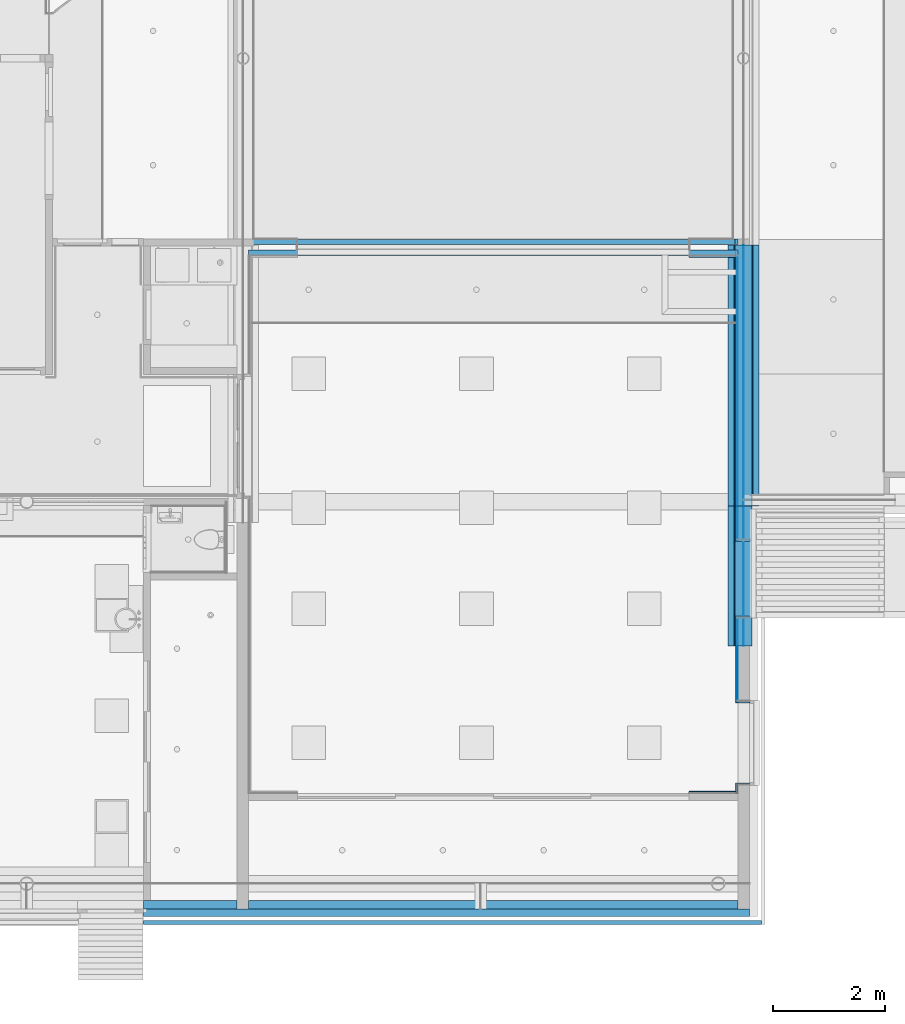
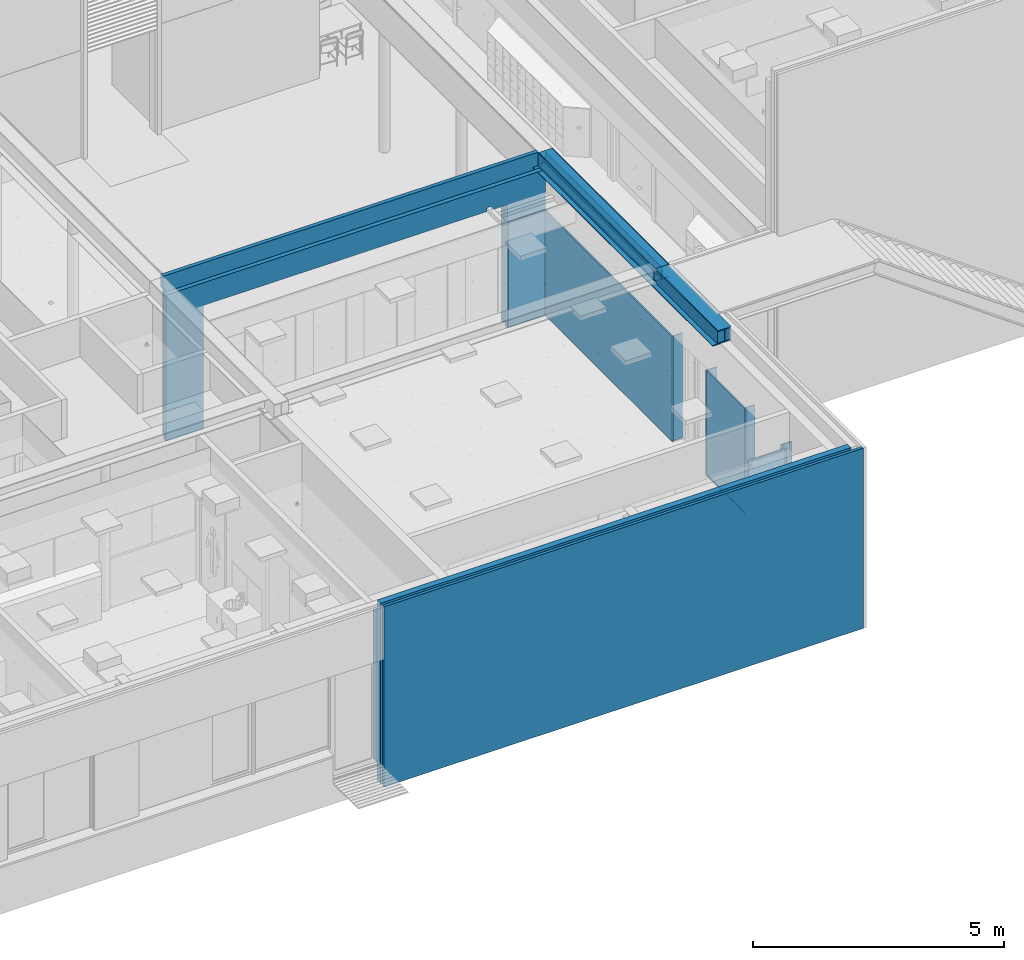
# One storey, part 116 of 347: 26 building element parts, 1 opening, 13 elements without a shape of their own.
"""IFC2X3 building model written with IfcOpenShell, lengths in millimetres."""

from ifc_helpers import new_model, entity, si_unit, converted_unit, derived_unit, money_unit, direction, frame, origin_with_axes, place, context, subcontext, project, spatial, faceted_brep, material, type_object, element, aggregate, save


model = new_model("IFC2X3")

# Units and contexts
model_context = context("Model", 3, precision=0.01, world=origin_with_axes(), true_north=direction((0.0, 1.0)))
plan_context = context("Plan", 3, precision=0.01, world=origin_with_axes(), true_north=direction((0.0, 1.0)))
body_context = subcontext(model_context, "Body", "Model", "MODEL_VIEW")
ifc_project = project(units=[si_unit("LENGTHUNIT", "METRE", prefix="MILLI"), si_unit("AREAUNIT", "SQUARE_METRE"), si_unit("VOLUMEUNIT", "CUBIC_METRE"), converted_unit("PLANEANGLEUNIT", "DEGREE", entity("IfcPlaneAngleMeasure", 0.0174532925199), si_unit("PLANEANGLEUNIT", "RADIAN"), dimensions=[0, 0, 0, 0, 0, 0, 0]), money_unit("EUR"), converted_unit("TIMEUNIT", "Year", entity("IfcTimeMeasure", 31556926.0), si_unit("TIMEUNIT", "SECOND"), dimensions=[0, 0, 1, 0, 0, 0, 0]), si_unit("MASSUNIT", "GRAM", prefix="KILO"), si_unit("THERMODYNAMICTEMPERATUREUNIT", "DEGREE_CELSIUS"), si_unit("LUMINOUSINTENSITYUNIT", "LUMEN"), si_unit("ENERGYUNIT", "JOULE", prefix="MEGA"), derived_unit("THERMALCONDUCTANCEUNIT", [(si_unit("POWERUNIT", "WATT"), 1), (si_unit("LENGTHUNIT", "METRE"), -1), (si_unit("THERMODYNAMICTEMPERATUREUNIT", "KELVIN"), -1)]), derived_unit("SPECIFICHEATCAPACITYUNIT", [(si_unit("ENERGYUNIT", "JOULE"), 1), (si_unit("MASSUNIT", "GRAM", prefix="KILO"), -1), (si_unit("THERMODYNAMICTEMPERATUREUNIT", "KELVIN"), -1)]), derived_unit("MASSDENSITYUNIT", [(si_unit("MASSUNIT", "GRAM", prefix="KILO"), 1), (si_unit("VOLUMEUNIT", "CUBIC_METRE"), -1)])], contexts=[model_context, plan_context])

# Site, building, storey
site_placement = place(None, origin_with_axes())
site = spatial("IfcSite", under=ifc_project, at=site_placement, Name="Site", CompositionType="ELEMENT")
building_placement = place(site_placement, origin_with_axes())
building = spatial("IfcBuilding", under=site, at=building_placement, Name="Naam gebouw", CompositionType="ELEMENT")
storey_placement = place(building_placement, origin_with_axes())
storey = spatial("IfcBuildingStorey", under=building, at=storey_placement, Name="begane grond", CompositionType="ELEMENT", Elevation=0.0)

# Wall, opening, building element parts
wall_type_1 = type_object("IfcWallType", Name="ALG LSW 300 300", PredefinedType="NOTDEFINED")
wall_1_placement = place(storey_placement, frame((44445.0012808, 16825.0009451, 0.0), z_axis=(0.0, 0.0, 1.0), x_axis=(-1.0, 0.0, 0.0)))
wall_1 = element("IfcWall", 1, at=wall_1_placement, inside=storey, type_object=wall_type_1, Name="21_GF 125 ECO DGS/2.75.3A")
opening_placement = place(wall_1_placement, frame((4370.00128081, 0.0, 0.0), z_axis=(0.0, 0.0, 1.0), x_axis=(1.0, 0.0, 0.0)))
element("IfcOpeningElement", 2, at=opening_placement, cuts=wall_1, Name="32_-", context=body_context, shape_type="Brep", body=[
    faceted_brep([(-3500.0, -600.0, 0.0), (-3500.0, -600.0, 3005.0), (-3500.0, 300.0, 3005.0), (-3500.0, 300.0, 0.0), (3500.0, -600.0, 0.0), (3500.0, -600.0, 3005.0), (3500.0, 300.0, 3005.0), (3500.0, 300.0, 0.0)], [[[0, 1, 2, 3]], [[0, 4, 5, 1]], [[1, 5, 6, 2]], [[3, 2, 6, 7]], [[4, 0, 3, 7]], [[5, 4, 7, 6]]]),
])
ifc_material_1 = material(Name="ALG - LICHTE SCHEIDINGSWAND")
building_element_part_1_placement = place(wall_1_placement, origin_with_axes())
building_element_part_1 = element("IfcBuildingElementPart", 3, at=building_element_part_1_placement, material=ifc_material_1, Name="ALG - LICHTE SCHEIDINGSWAND", context=body_context, shape_type="Brep", body=[
    faceted_brep([(1350.00128081, 300.0, 3005.0), (1350.00128081, 287.500945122, 3005.0), (1350.00128081, 287.500945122, 3100.0), (1350.00128081, 300.0, 3100.0), (7870.00128081, 287.500945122, 3005.0), (7870.00128081, 300.0, 3005.0), (7870.00128081, 287.500945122, 3100.0), (7870.00128081, 200.0, 3100.0), (870.001280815, 200.0, 3100.0), (870.001280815, 287.500945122, 3100.0), (1250.00128081, 287.500945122, 3100.0), (1250.00128081, 300.0, 3100.0), (870.001280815, 300.0, 3005.0), (870.001280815, 300.0, 0.0), (4.24466151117e-06, 300.0, 0.0), (4.24466151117e-06, 300.0, 3560.0), (8740.00126716, 300.0, 3560.0), (8740.00126716, 300.0, 0.0), (7870.00128081, 300.0, 0.0), (1250.00128081, 300.0, 3005.0), (7870.00128081, 200.0, 0.0), (7870.00128081, 200.0, 3000.0), (7870.00128081, 287.500945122, 3000.0), (870.001280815, 200.0, 0.0), (870.001280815, 200.0, 3000.0), (8740.00126716, 200.0, 0.0), (8740.00126716, 200.0, 3560.0), (3.50077300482e-07, 200.0, 3560.0), (4.24466151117e-06, 200.0, 0.0), (870.001280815, 287.500945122, 3000.0), (870.001280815, 287.500945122, 3005.0), (1250.00128081, 287.500945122, 3005.0)], [[[0, 1, 2, 3]], [[4, 1, 0, 5]], [[1, 4, 6, 2]], [[7, 8, 9, 10, 11, 3, 2, 6]], [[12, 13, 14, 15, 16, 17, 18, 5, 0, 3, 11, 19]], [[20, 21, 22, 4, 5, 18]], [[22, 21, 7, 6, 4]], [[23, 24, 8, 7, 21, 20, 25, 26, 27, 28]], [[29, 30, 9, 8, 24]], [[30, 31, 10, 9]], [[31, 19, 11, 10]], [[29, 24, 23, 13, 12, 30]], [[13, 23, 28, 14]], [[27, 15, 14, 28]], [[15, 27, 26, 16]], [[16, 26, 25, 17]], [[20, 18, 17, 25]], [[31, 30, 12, 19]]]),
])
building_element_part_2_placement = place(wall_1_placement, origin_with_axes())
building_element_part_2 = element("IfcBuildingElementPart", 4, at=building_element_part_2_placement, material=ifc_material_1, Name="ALG - LICHTE SCHEIDINGSWAND", context=body_context, shape_type="Brep", body=[
    faceted_brep([(8650.00117154, 12.0009428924, 3560.0), (8650.00117154, 0.000945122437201, 3560.0), (8650.00117154, 0.000942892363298, 3880.0), (8650.00117154, 12.0009428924, 3880.0), (8690.00128081, 0.000945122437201, 3560.0), (8650.00117154, 100.0, 3560.0), (8690.00128081, 100.0, 3560.0), (8690.00128081, -0.000268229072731, 3880.0), (50.0013031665, 0.000164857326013, 3880.0), (90.0012808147, 0.000942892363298, 3880.0), (90.0012808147, 12.0009428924, 3880.0), (8690.00128081, 100.0, 3880.0), (50.0013031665, 100.0, 3880.0), (8650.00117154, 12.0009428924, 3000.0), (90.0012786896, 12.0009428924, 3012.0), (90.0012808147, 12.0009428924, 3000.0), (870.001280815, 12.0009428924, 3000.0), (870.001280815, 12.0009428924, 3012.0), (7870.00128081, 12.0009428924, 3012.0), (7870.00128081, 12.0009428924, 3000.0), (8650.00117154, 12.5009428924, 3000.0), (8650.00117154, 12.5009428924, 0.0), (8650.00117154, 100.0, 0.0), (7882.50128081, 100.0, 0.0), (7882.50128081, 100.0, 3000.0), (7870.00128081, 100.0, 3000.0), (7870.00128081, 100.0, 3012.0), (870.001280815, 100.0, 3012.0), (870.001280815, 100.0, 3000.0), (857.501280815, 100.0, 3000.0), (857.501280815, 100.0, 0.0), (4.24466151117e-06, 100.0, 0.0), (4.24466151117e-06, 100.0, 3560.0), (50.0013031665, 100.0, 3560.0), (50.0013031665, 0.000204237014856, 3560.0), (4.24466151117e-06, 0.0, 3560.0), (2.24777352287e-06, 0.000146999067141, 3012.0), (90.0012765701, 0.00026966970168, 3012.0), (90.0012765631, 15.0009779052, 3012.0), (90.0012765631, 15.0009779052, 3000.0), (90.0000252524, 12.5009416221, 3000.0), (857.501280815, 12.5009416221, 3000.0), (7882.50128081, 12.5009428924, 3000.0), (7882.50128081, 12.5009428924, 0.0), (857.501280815, 12.5009416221, 0.0), (90.0000252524, 12.5009416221, 0.0), (90.0000252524, 0.000941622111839, 0.0), (4.24466151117e-06, 0.000954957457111, 0.0), (2.2608972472e-06, 0.000150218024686, 3000.0), (2.2608972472e-06, 15.0009779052, 3000.0), (2.24777352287e-06, 15.0009779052, 3012.0), (90.0000252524, 0.000941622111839, 3000.0)], [[[0, 1, 2, 3]], [[4, 1, 0, 5, 6]], [[1, 4, 7, 2]], [[8, 9, 10, 3, 2, 7, 11, 12]], [[13, 0, 3, 10, 14, 15, 16, 17, 18, 19]], [[0, 13, 20, 21, 22, 5]], [[5, 22, 23, 24, 25, 26, 27, 28, 29, 30, 31, 32, 33, 12, 11, 6]], [[4, 6, 11, 7]], [[9, 8, 34, 35, 36, 37]], [[37, 14, 10, 9]], [[8, 12, 33, 34]], [[38, 39, 40, 15, 14]], [[28, 16, 15, 40, 41, 29]], [[28, 27, 17, 16]], [[17, 27, 26, 18]], [[18, 26, 25, 19]], [[20, 13, 19, 25, 24, 42]], [[21, 20, 42, 43]], [[22, 21, 43, 23]], [[23, 43, 42, 24]], [[44, 30, 29, 41]], [[44, 45, 46, 47, 31, 30]], [[48, 49, 50, 36, 35, 32, 31, 47]], [[34, 33, 32, 35]], [[38, 14, 37, 36, 50]], [[49, 39, 38, 50]], [[40, 39, 49, 48, 51]], [[40, 45, 44, 41]], [[51, 46, 45, 40]], [[47, 46, 51, 48]]]),
])
aggregate(wall_1, [building_element_part_1, building_element_part_2])

# Wall, building element parts
wall_type_2 = type_object("IfcWallType", Name="22 beg metselwerk 430 x 4390", PredefinedType="NOTDEFINED")
wall_2_placement = place(storey_placement, frame((33825.0, 5000.0, 0.0), z_axis=(0.0, 0.0, 1.0), x_axis=(1.0, 0.0, 0.0)))
wall_2 = element("IfcWall", 5, at=wall_2_placement, inside=storey, type_object=wall_type_2, Name="21_21 betonwand")
ifc_material_2 = material(Name="Steen - Kalkzandsteen C")
building_element_part_3_placement = place(wall_2_placement, origin_with_axes())
building_element_part_3 = element("IfcBuildingElementPart", 6, at=building_element_part_3_placement, material=ifc_material_2, Name="Steen - Kalkzandsteen C", context=body_context, shape_type="Brep", body=[
    faceted_brep([(0.0, -149.999997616, 3559.99997586), (1670.0, -150.0, 3560.0), (1670.0, -2.30968222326e-05, 3560.0), (0.0, -2.30968222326e-05, 3559.99997586), (0.0, -149.999997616, -69.9999831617), (1670.0, -150.0, -69.9999831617), (1670.0, -2.30968186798e-05, -69.9999831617), (0.0, -2.30968222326e-05, -69.9999831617)], [[[0, 1, 2, 3]], [[4, 5, 1, 0]], [[5, 6, 2, 1]], [[3, 2, 6, 7]], [[3, 7, 4, 0]], [[7, 6, 5, 4]]]),
    faceted_brep([(1880.0, -150.0, 3560.0), (10620.0012766, -149.999997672, 3560.0), (10620.0012766, -2.30968222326e-05, 3560.0), (1880.0, -2.30968222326e-05, 3560.0), (1880.0, -150.0, -69.9999831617), (10620.0012766, -149.999997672, -69.9999831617), (10620.0012766, -2.30968222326e-05, -69.9999831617), (1880.0, -2.30968222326e-05, -69.9999831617)], [[[0, 1, 2, 3]], [[4, 5, 1, 0]], [[5, 6, 2, 1]], [[3, 2, 6, 7]], [[4, 0, 3, 7]], [[7, 6, 5, 4]]]),
])
ifc_material_3 = material(Name="Isolatie - Kunststof hard")
building_element_part_4_placement = place(wall_2_placement, origin_with_axes())
building_element_part_4 = element("IfcBuildingElementPart", 7, at=building_element_part_4_placement, material=ifc_material_3, Name="Isolatie - Kunststof hard", context=body_context, shape_type="Brep", body=[
    faceted_brep([(0.0, -290.0, 3880.0), (10829.9999844, -290.0, 3880.0), (10829.9999844, -150.0, 3880.0), (0.0, -150.0, 3880.0), (10829.9999844, -290.0, -510.0), (0.0, -290.0, -510.0), (10829.9999844, -149.999997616, -69.9999831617), (10829.9999844, -149.999997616, 3559.99997586), (10829.9999844, -150.0, -510.0), (0.0, -149.999997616, 3559.99997586), (0.0, -149.999997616, -69.9999831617), (0.0, -150.0, -510.0)], [[[0, 1, 2, 3]], [[4, 1, 0, 5]], [[6, 7, 2, 1, 4, 8]], [[3, 2, 7, 9]], [[9, 10, 11, 5, 0, 3]], [[11, 8, 4, 5]], [[9, 7, 6, 10]], [[10, 6, 8, 11]]]),
])
ifc_material_4 = material(Name="Steen - Baksteen")
building_element_part_5_placement = place(wall_2_placement, origin_with_axes())
building_element_part_5 = element("IfcBuildingElementPart", 8, at=building_element_part_5_placement, material=ifc_material_4, Name="Steen - Baksteen", context=body_context, shape_type="Brep", body=[
    faceted_brep([(11039.9999985, -430.000064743, 3880.0), (11039.9999985, -360.000015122, 3880.0000008), (0.0, -360.000015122, 3880.0), (0.0, -430.00008173, 3880.0), (11039.9999985, -430.000064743, -510.0), (11039.9999985, -360.000015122, -510.0), (0.0, -360.000015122, -510.0), (0.0, -430.00008173, -510.0)], [[[0, 1, 2, 3]], [[1, 0, 4, 5]], [[1, 5, 6, 2]], [[7, 3, 2, 6]], [[0, 3, 7, 4]], [[5, 4, 7, 6]]]),
])
aggregate(wall_2, [building_element_part_3, building_element_part_4, building_element_part_5])

# Beam, building element parts
beam_type_1 = type_object("IfcBeamType", Name="28 SFBHE320B/S355 550 x 340", PredefinedType="BEAM")
beam_1_placement = place(storey_placement, frame((44545.0, 16710.0006327, 3560.0), z_axis=(0.0, 0.0, 1.0), x_axis=(-1.0, 0.0, 0.0)))
beam_1 = element("IfcBeam", 9, at=beam_1_placement, inside=storey, type_object=beam_type_1, Name="28_Balk-x", ObjectType="BEAM")
ifc_material_5 = material(Name="Beton gewapend C vloer")
building_element_part_6_placement = place(beam_1_placement, origin_with_axes())
building_element_part_6 = element("IfcBuildingElementPart", 10, at=building_element_part_6_placement, material=ifc_material_5, Name="Beton gewapend C vloer", context=body_context, shape_type="Brep", body=[
    faceted_brep([(-170.0, 4559.50059906, 185.000000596), (-170.0, 4655.00059906, 185.000000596), (-170.0, 4655.00059906, 200.000000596), (-170.0, 4455.00059906, 200.000000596), (-170.0, 4455.00059906, 185.000000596), (-170.0, 4550.50059906, 185.000000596), (-170.0, 4550.50059906, 15.000000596), (-170.0, 4455.00059906, 15.000000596), (-170.0, 4455.00059906, 4.65583127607e-09), (-170.0, 0.0, 0.0), (-170.0, 0.0, 320.000002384), (-170.0, 4660.00059903, 320.000002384), (-170.0, 4660.00059903, 0.0), (-170.0, 4655.00059906, 4.65583127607e-09), (-170.0, 4655.00059906, 15.000000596), (-170.0, 4559.50059906, 15.000000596), (-5.75, 4655.00059906, 185.000000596), (-5.75, 4559.50059906, 185.000000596), (-5.75, 4655.00059906, 200.000000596), (-5.75, 4455.00059906, 200.000000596), (-5.75, 4455.00059906, 185.000000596), (-5.75, 4550.50059906, 185.000000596), (-150.0, 4550.50059906, 15.000000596), (-5.75, 4550.50059906, 20.5), (-150.0, 4550.50059906, 20.5), (-150.0, 4455.00059906, 15.000000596), (-150.0, 4455.00059906, 0.0), (-150.000002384, 0.0, 0.0), (-150.000002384, 0.0, 320.000002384), (-150.000002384, 0.0, 20.500000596), (-5.74999880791, 0.0, 20.500000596), (-5.74999880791, 0.0, 299.500001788), (-150.000002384, 0.0, 299.500001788), (-150.000002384, 4660.00059903, 320.000002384), (-150.000002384, 4660.00059903, 20.500000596), (-150.000002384, 4660.00059903, 0.0), (-150.000002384, 4660.00059903, 299.500001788), (-5.74999880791, 4660.00059903, 299.500001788), (-5.74999880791, 4660.00059903, 20.500000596), (-150.0, 4655.00059906, 0.0), (-150.0, 4655.00059906, 15.000000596), (-150.0, 4559.50059906, 15.000000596), (-150.0, 4559.50059906, 20.5), (-5.75, 4559.50059906, 20.5)], [[[0, 1, 2, 3, 4, 5, 6, 7, 8, 9, 10, 11, 12, 13, 14, 15]], [[16, 1, 0, 17]], [[18, 2, 1, 16]], [[19, 3, 2, 18]], [[20, 4, 3, 19]], [[21, 5, 4, 20]], [[22, 6, 5, 21, 23, 24]], [[25, 7, 6, 22]], [[26, 8, 7, 25]], [[9, 8, 26, 27]], [[28, 10, 9, 27, 29, 30, 31, 32]], [[10, 28, 33, 11]], [[34, 35, 12, 11, 33, 36, 37, 38]], [[35, 39, 13, 12]], [[40, 14, 13, 39]], [[41, 15, 14, 40]], [[17, 0, 15, 41, 42, 43]], [[16, 17, 43, 38, 37, 31, 30, 23, 21, 20, 19, 18]], [[29, 24, 23, 30]], [[25, 22, 24, 29, 27, 26]], [[32, 31, 37, 36]], [[28, 32, 36, 33]], [[41, 40, 39, 35, 34, 42]], [[38, 43, 42, 34]]]),
    faceted_brep([(5.75, 4590.7506327, 20.5), (5.75, 4590.7506327, 299.5), (5.74999880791, 4660.00059903, 299.500001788), (5.74999880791, 4660.00059903, 20.500000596), (150.0, 4590.7506327, 299.5), (150.0, 4590.7506327, 20.5), (170.0, 4590.7506327, 20.5), (170.0, 4590.7506327, 299.5), (170.0, 4660.00059903, 299.5), (150.0, 4660.00059903, 299.5), (170.0, 4660.00059903, 20.5), (150.000001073, 4660.00059903, 20.4999995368)], [[[0, 1, 2, 3]], [[4, 1, 0, 5, 6, 7]], [[4, 7, 8, 9, 2, 1]], [[10, 11, 3, 2, 9, 8]], [[5, 0, 3, 11, 10, 6]], [[6, 10, 8, 7]]]),
    faceted_brep([(150.0, 4435.0006327, 299.5), (170.0, 4435.0006327, 299.5), (170.0, 4579.2506327, 299.5), (150.0, 4579.2506327, 299.5), (5.75, 4579.2506327, 299.5), (5.74999880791, 0.0, 299.500001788), (150.000002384, 0.0, 299.500001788), (150.0, 4435.0006327, 320.0), (170.0, 4435.0006327, 320.0), (170.0, 0.0, 320.000002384), (170.0, 0.0, 0.0), (170.0, 4435.0006327, 0.0), (170.0, 4435.0006327, 20.5), (170.0, 4579.2506327, 20.5), (5.75, 4579.2506327, 20.5), (150.0, 4579.2506327, 20.5), (5.74999880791, 0.0, 20.500000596), (150.000002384, 0.0, 20.500000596), (150.000002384, 0.0, 0.0), (150.000002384, 0.0, 320.000002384), (150.0, 4435.0006327, 0.0), (150.0, 4435.0006327, 20.5)], [[[0, 1, 2, 3, 4, 5, 6]], [[0, 7, 8, 1]], [[1, 8, 9, 10, 11, 12, 13, 2]], [[14, 4, 3, 2, 13, 15]], [[4, 14, 16, 5]], [[6, 5, 16, 17, 18, 10, 9, 19]], [[7, 0, 6, 19]], [[8, 7, 19, 9]], [[20, 11, 10, 18]], [[20, 21, 12, 11]], [[15, 13, 12, 21, 17, 16, 14]], [[21, 20, 18, 17]]]),
])
ifc_material_6 = material(Name="Metaal - Staal C")
building_element_part_7_placement = place(beam_1_placement, origin_with_axes())
building_element_part_7 = element("IfcBuildingElementPart", 11, at=building_element_part_7_placement, material=ifc_material_6, Name="Metaal - Staal C", context=body_context, shape_type="Brep", body=[
    faceted_brep([(-150.0, 4660.00059903, 0.0), (150.0, 4660.00059903, 0.0), (150.0, 0.0, 0.0), (-150.0, 0.0, 0.0), (-150.0, 4660.00059903, 20.5), (150.0, 4660.00059903, 20.5), (150.0, 0.0, 20.5), (-150.0, 0.0, 20.5)], [[[0, 1, 2, 3]], [[0, 4, 5, 1]], [[1, 5, 6, 2]], [[3, 2, 6, 7]], [[4, 0, 3, 7]], [[5, 4, 7, 6]]]),
])
building_element_part_8_placement = place(beam_1_placement, origin_with_axes())
building_element_part_8 = element("IfcBuildingElementPart", 12, at=building_element_part_8_placement, material=ifc_material_6, Name="Metaal - Staal C", context=body_context, shape_type="Brep", body=[
    faceted_brep([(-5.75, 4660.00059903, 299.5), (-5.75, 4660.00059903, 20.5), (-5.75, 0.0, 20.5), (-5.75, 0.0, 299.5), (5.75, 4660.00059903, 299.5), (5.75, 4660.00059903, 20.5), (5.75, 0.0, 20.5), (5.75, 0.0, 299.5)], [[[0, 1, 2, 3]], [[0, 4, 5, 1]], [[1, 5, 6, 2]], [[3, 2, 6, 7]], [[4, 0, 3, 7]], [[5, 4, 7, 6]]]),
])
building_element_part_9_placement = place(beam_1_placement, origin_with_axes())
building_element_part_9 = element("IfcBuildingElementPart", 13, at=building_element_part_9_placement, material=ifc_material_6, Name="Metaal - Staal C", context=body_context, shape_type="Brep", body=[
    faceted_brep([(-150.0, 4660.00059903, 320.0), (-150.0, 4660.00059903, 299.5), (-150.0, 0.0, 299.5), (-150.0, 0.0, 320.0), (150.0, 4660.00059903, 320.0), (150.0, 4660.00059903, 299.5), (150.0, 0.0, 299.5), (150.0, 0.0, 320.0)], [[[0, 1, 2, 3]], [[0, 4, 5, 1]], [[1, 5, 6, 2]], [[3, 2, 6, 7]], [[4, 0, 3, 7]], [[5, 4, 7, 6]]]),
])
building_element_part_10_placement = place(beam_1_placement, origin_with_axes())
building_element_part_10 = element("IfcBuildingElementPart", 14, at=building_element_part_10_placement, material=ifc_material_6, Name="Metaal - Staal C", context=body_context, shape_type="Brep", body=[
    faceted_brep([(-275.0, 4660.00059903, 0.0), (-275.0, 4660.00059903, -20.0), (-275.0, 0.0, -20.0), (-275.0, 0.0, 0.0), (-170.0, 4660.00059903, 0.0), (170.0, 4660.00059903, 0.0), (275.0, 4660.00059903, 0.0), (275.0, 4660.00059903, -20.0), (275.0, 0.0, -20.0), (275.0, 0.0, 0.0), (170.0, 0.0, 0.0), (-170.0, 0.0, 0.0)], [[[0, 1, 2, 3]], [[0, 4, 5, 6, 7, 1]], [[1, 7, 8, 2]], [[3, 2, 8, 9, 10, 11]], [[4, 0, 3, 11]], [[5, 4, 11, 10]], [[6, 5, 10, 9]], [[7, 6, 9, 8]]]),
])
aggregate(beam_1, [building_element_part_6, building_element_part_7, building_element_part_8, building_element_part_9, building_element_part_10])

# Proxy, building element part
building_element_proxy_type = type_object("IfcBuildingElementProxyType", Name="Viltonwand 2600+ 33 x 2600", PredefinedType="NOTDEFINED")
proxy_1_placement = place(storey_placement, frame((44654.9999844, 7065.00951773, 0.0), z_axis=(0.0, 0.0, 1.0), x_axis=(-1.0, 8.90627314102e-08, 0.0)))
proxy_1 = element("IfcBuildingElementProxy", 15, at=proxy_1_placement, inside=storey, type_object=building_element_proxy_type, Name="42_52 wandtegels keramisch")
ifc_material_7 = material(Name="Vilton")
building_element_part_11_placement = place(proxy_1_placement, origin_with_axes())
building_element_part_11 = element("IfcBuildingElementPart", 16, at=building_element_part_11_placement, material=ifc_material_7, Name="Vilton", context=body_context, shape_type="Brep", body=[
    faceted_brep([(242.999502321, -32.9999783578, 50.0000059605), (242.999502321, -32.9999783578, 2600.0), (2.93907476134e-06, -33.0, 2600.0), (2.93907476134e-06, -33.0, 50.0), (242.999588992, 2.16422071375e-05, 2600.0), (242.99957586, -4.99998431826, 50.0000059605), (242.999588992, 2.16422071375e-05, 50.0000059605), (0.0, 0.0, 2600.0), (0.0, 0.0, 50.0), (4.45318448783e-07, -5.00000596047, 50.0000059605)], [[[0, 1, 2, 3]], [[4, 1, 0, 5, 6]], [[1, 4, 7, 2]], [[3, 2, 7, 8, 9]], [[5, 0, 3, 9]], [[6, 5, 9, 8]], [[4, 6, 8, 7]]]),
])
aggregate(proxy_1, [building_element_part_11])

proxy_2_placement = place(storey_placement, frame((44445.0004073, 7065.00953644, 0.0), z_axis=(0.0, 0.0, 1.0), x_axis=(-2.71545800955e-06, -0.999999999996, 0.0)))
proxy_2 = element("IfcBuildingElementProxy", 17, at=proxy_2_placement, inside=storey, type_object=building_element_proxy_type, Name="42_53 wandtegels keramisch")
building_element_part_12_placement = place(proxy_2_placement, origin_with_axes())
building_element_part_12 = element("IfcBuildingElementPart", 18, at=building_element_part_12_placement, material=ifc_material_7, Name="Vilton", context=body_context, shape_type="Brep", body=[
    faceted_brep([(1.87031359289e-05, 0.0, 50.0), (1.87031359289e-05, 0.0, 2600.0), (150.000005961, 0.0, 2600.0), (150.000005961, 0.0, 50.0000059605), (0.000108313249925, -33.0, 2600.0), (3.22804423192e-05, -5.00000596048, 50.0), (0.000108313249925, -33.0, 50.0), (150.000095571, -33.0, 2600.0), (150.000019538, -5.00000596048, 50.0000059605), (150.000095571, -33.0, 50.0000059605)], [[[0, 1, 2, 3]], [[4, 1, 0, 5, 6]], [[1, 4, 7, 2]], [[8, 3, 2, 7, 9]], [[5, 0, 3, 8]], [[6, 5, 8, 9]], [[4, 6, 9, 7]]]),
])
aggregate(proxy_2, [building_element_part_12])

proxy_3_placement = place(storey_placement, frame((44445.0, 6915.00953644, 0.0), z_axis=(0.0, 0.0, 1.0), x_axis=(-1.0, 0.0, 0.0)))
proxy_3 = element("IfcBuildingElementProxy", 19, at=proxy_3_placement, inside=storey, type_object=building_element_proxy_type, Name="42_54 wandtegels keramisch")
building_element_part_13_placement = place(proxy_3_placement, origin_with_axes())
building_element_part_13 = element("IfcBuildingElementPart", 20, at=building_element_part_13_placement, material=ifc_material_7, Name="Vilton", context=body_context, shape_type="Brep", body=[
    faceted_brep([(33.0000000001, 0.0, 2600.0), (32.99991039, -33.0, 2600.0), (870.0, -33.0, 2600.0), (870.0, 0.0, 2600.0), (32.99991039, -33.0, 50.0), (33.0000000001, 0.0, 50.0), (32.9999864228, -5.00000596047, 50.0), (870.0, -33.0, 50.0), (870.0, 0.0, 50.0), (870.0, -5.00000596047, 50.0000059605)], [[[0, 1, 2, 3]], [[4, 1, 0, 5, 6]], [[1, 4, 7, 2]], [[8, 3, 2, 7, 9]], [[5, 0, 3, 8]], [[6, 5, 8, 9]], [[4, 6, 9, 7]]]),
])
aggregate(proxy_3, [building_element_part_13])

proxy_4_placement = place(storey_placement, frame((44655.0007534, 10050.0, 0.0), z_axis=(0.0, 0.0, 1.0), x_axis=(-1.0, 0.0, 0.0)))
proxy_4 = element("IfcBuildingElementProxy", 21, at=proxy_4_placement, inside=storey, type_object=building_element_proxy_type, Name="42_55 wandtegels keramisch")
building_element_part_14_placement = place(proxy_4_placement, origin_with_axes())
building_element_part_14 = element("IfcBuildingElementPart", 22, at=building_element_part_14_placement, material=ifc_material_7, Name="Vilton", context=body_context, shape_type="Brep", body=[
    faceted_brep([(243.000092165, -33.0, 50.0000059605), (243.000092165, -33.0, 2600.0), (0.0, -33.0, 2600.0), (0.0, -33.0, 50.0), (243.000092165, 0.0, 2600.0), (243.000092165, -5.00000596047, 50.0000059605), (243.000092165, 0.0, 50.0000059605), (0.0, 0.0, 2600.0), (0.0, 0.0, 50.0), (0.0, -5.00000596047, 50.0000059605)], [[[0, 1, 2, 3]], [[4, 1, 0, 5, 6]], [[1, 4, 7, 2]], [[3, 2, 7, 8, 9]], [[5, 0, 3, 9]], [[6, 5, 9, 8]], [[4, 6, 8, 7]]]),
])
aggregate(proxy_4, [building_element_part_14])

# Proxy, building element parts
proxy_5_placement = place(storey_placement, frame((44445.0006732, 10050.0, 0.0), z_axis=(0.0, 0.0, 1.0), x_axis=(-8.90627305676e-08, -1.0, 0.0)))
proxy_5 = element("IfcBuildingElementProxy", 23, at=proxy_5_placement, inside=storey, type_object=building_element_proxy_type, Name="42_56 wandtegels keramisch")
ifc_material_8 = material(Name="Kunststof - massief")
building_element_part_15_placement = place(proxy_5_placement, origin_with_axes())
building_element_part_15 = element("IfcBuildingElementPart", 24, at=building_element_part_15_placement, material=ifc_material_8, Name="Kunststof - massief", context=body_context, shape_type="Brep", body=[
    faceted_brep([(1.78814101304e-05, 1.78814119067e-05, 0.0), (1.78814101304e-05, 1.78814119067e-05, 50.0000059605), (1489.99048145, 0.000150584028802, 50.0000059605), (1489.99048145, 0.000150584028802, 0.0), (1.83267250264e-05, -5.00000596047, 50.0000059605), (1.83267250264e-05, -5.00000596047, 0.0), (1489.99048189, -4.99987325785, 50.0000059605), (1489.99048189, -4.99987325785, 0.0)], [[[0, 1, 2, 3]], [[4, 1, 0, 5]], [[1, 4, 6, 2]], [[7, 3, 2, 6]], [[5, 0, 3, 7]], [[4, 5, 7, 6]]]),
])
building_element_part_16_placement = place(proxy_5_placement, origin_with_axes())
building_element_part_16 = element("IfcBuildingElementPart", 25, at=building_element_part_16_placement, material=ifc_material_7, Name="Vilton", context=body_context, shape_type="Brep", body=[
    faceted_brep([(0.0, 0.0, 50.0), (0.0, 0.0, 2600.0), (1517.99047548, 0.000135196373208, 2600.0), (1517.99047548, 0.000135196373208, 50.0000059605), (2.93907120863e-06, -33.0, 2600.0), (4.45314896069e-07, -5.00000596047, 50.0), (2.93907120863e-06, -33.0, 50.0), (1517.99047842, -32.9998648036, 2600.0), (1517.99047593, -4.9998707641, 50.0000059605), (1517.99047842, -32.9998648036, 50.0000059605)], [[[0, 1, 2, 3]], [[4, 1, 0, 5, 6]], [[1, 4, 7, 2]], [[8, 3, 2, 7, 9]], [[5, 0, 3, 8]], [[6, 5, 8, 9]], [[4, 6, 9, 7]]]),
])
aggregate(proxy_5, [building_element_part_15, building_element_part_16])

# Proxy, building element part
proxy_6_placement = place(storey_placement, frame((44445.0005409, 8565.00953644, 0.0), z_axis=(0.0, 0.0, 1.0), x_axis=(1.0, -8.90627330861e-08, 0.0)))
proxy_6 = element("IfcBuildingElementProxy", 26, at=proxy_6_placement, inside=storey, type_object=building_element_proxy_type, Name="42_57 wandtegels keramisch")
building_element_part_17_placement = place(proxy_6_placement, origin_with_axes())
building_element_part_17 = element("IfcBuildingElementPart", 27, at=building_element_part_17_placement, material=ifc_material_7, Name="Vilton", context=body_context, shape_type="Brep", body=[
    faceted_brep([(0.000132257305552, 0.0, 50.0), (0.000132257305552, 0.0, 2600.0), (209.999440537, 1.87031243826e-05, 2600.0), (209.999440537, 1.87031243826e-05, 50.0), (0.000135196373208, -33.0, 2600.0), (0.000132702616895, -5.00000596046, 50.0), (0.000135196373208, -33.0, 50.0), (209.999443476, -32.9999812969, 2600.0), (209.999443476, -32.9999812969, 50.0), (209.999440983, -4.99998725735, 50.0000059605)], [[[0, 1, 2, 3]], [[4, 1, 0, 5, 6]], [[1, 4, 7, 2]], [[3, 2, 7, 8, 9]], [[5, 0, 3, 9]], [[6, 5, 9, 8]], [[4, 6, 8, 7]]]),
])
aggregate(proxy_6, [building_element_part_17])

proxy_7_placement = place(storey_placement, frame((43574.9999056, 16525.0, 0.0), z_axis=(0.0, 0.0, 1.0), x_axis=(1.0, 0.0, 0.0)))
proxy_7 = element("IfcBuildingElementProxy", 28, at=proxy_7_placement, inside=storey, type_object=building_element_proxy_type, Name="42_58 wandtegels keramisch")
building_element_part_18_placement = place(proxy_7_placement, origin_with_axes())
building_element_part_18 = element("IfcBuildingElementPart", 29, at=building_element_part_18_placement, material=ifc_material_7, Name="Vilton", context=body_context, shape_type="Brep", body=[
    faceted_brep([(870.000105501, -33.0, 2600.0), (870.000100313, 0.0, 2600.0), (0.0, 0.0, 2600.0), (0.0, -33.0, 2600.0), (870.000100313, 0.0, 50.0000059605), (870.000105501, -33.0, 50.0000059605), (870.000101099, -5.00000596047, 50.0000059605), (0.0, 0.0, 50.0), (0.0, -33.0, 50.0), (0.0, -5.00000596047, 50.0000059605)], [[[0, 1, 2, 3]], [[4, 1, 0, 5, 6]], [[1, 4, 7, 2]], [[8, 3, 2, 7, 9]], [[5, 0, 3, 8]], [[6, 5, 8, 9]], [[4, 6, 9, 7]]]),
])
aggregate(proxy_7, [building_element_part_18])

# Proxy, building element parts
proxy_8_placement = place(storey_placement, frame((44445.0, 16525.0, 0.0), z_axis=(0.0, 0.0, 1.0), x_axis=(1.57213386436e-07, -1.0, 0.0)))
proxy_8 = element("IfcBuildingElementProxy", 30, at=proxy_8_placement, inside=storey, type_object=building_element_proxy_type, Name="42_59 wandtegels keramisch")
building_element_part_19_placement = place(proxy_8_placement, origin_with_axes())
building_element_part_19 = element("IfcBuildingElementPart", 31, at=building_element_part_19_placement, material=ifc_material_8, Name="Kunststof - massief", context=body_context, shape_type="Brep", body=[
    faceted_brep([(5.00000596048, 1.78814119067e-05, 0.0), (5.00000596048, 1.78814119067e-05, 50.0000059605), (5080.00001788, 1.78814190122e-05, 50.0000059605), (5080.00001788, 1.78814190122e-05, 0.0), (5.0000051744, -5.00000596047, 50.0000059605), (5.0000051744, -5.00000596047, 0.0), (5080.0000171, -5.00000596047, 50.0000059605), (5080.0000171, -5.00000596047, 0.0)], [[[0, 1, 2, 3]], [[4, 1, 0, 5]], [[1, 4, 6, 2]], [[7, 3, 2, 6]], [[5, 0, 3, 7]], [[4, 5, 7, 6]]]),
])
building_element_part_20_placement = place(proxy_8_placement, origin_with_axes())
building_element_part_20 = element("IfcBuildingElementPart", 32, at=building_element_part_20_placement, material=ifc_material_7, Name="Vilton", context=body_context, shape_type="Brep", body=[
    faceted_brep([(33.0, 0.0, 50.0), (33.0, 0.0, 2600.0), (5108.00001192, 0.0, 2600.0), (5108.00001192, 0.0, 50.0000059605), (32.999994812, -33.0, 2600.0), (32.9999992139, -5.00000596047, 50.0), (32.999994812, -33.0, 50.0), (5108.00000673, -33.0, 2600.0), (5108.00001113, -5.00000596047, 50.0000059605), (5108.00000673, -33.0, 50.0000059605)], [[[0, 1, 2, 3]], [[4, 1, 0, 5, 6]], [[1, 4, 7, 2]], [[8, 3, 2, 7, 9]], [[5, 0, 3, 8]], [[6, 5, 8, 9]], [[4, 6, 9, 7]]]),
])
aggregate(proxy_8, [building_element_part_19, building_element_part_20])

# Proxy, building element part
proxy_9_placement = place(storey_placement, frame((44445.0007979, 11450.0, 0.0), z_axis=(0.0, 0.0, 1.0), x_axis=(1.0, -8.90627339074e-08, 0.0)))
proxy_9 = element("IfcBuildingElementProxy", 33, at=proxy_9_placement, inside=storey, type_object=building_element_proxy_type, Name="42_60 wandtegels keramisch")
building_element_part_21_placement = place(proxy_9_placement, origin_with_axes())
building_element_part_21 = element("IfcBuildingElementPart", 34, at=building_element_part_21_placement, material=ifc_material_7, Name="Vilton", context=body_context, shape_type="Brep", body=[
    faceted_brep([(0.0, 0.0, 50.0), (0.0, 0.0, 2600.0), (209.999997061, 1.87031741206e-05, 2600.0), (209.999997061, 1.87031741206e-05, 50.0), (8.12711675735e-06, -33.0, 2600.0), (1.23139187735e-06, -5.00000596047, 50.0), (8.12711675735e-06, -33.0, 50.0), (210.0, -32.9999812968, 2600.0), (210.0, -32.9999812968, 50.0), (209.999997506, -4.9999872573, 50.0000059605)], [[[0, 1, 2, 3]], [[4, 1, 0, 5, 6]], [[1, 4, 7, 2]], [[3, 2, 7, 8, 9]], [[5, 0, 3, 9]], [[6, 5, 9, 8]], [[4, 6, 8, 7]]]),
])
aggregate(proxy_9, [building_element_part_21])

# Beam, building element parts
beam_type_2 = type_object("IfcBeamType", Name="28 SFBHE320B/S355 (pet) 425 x 340", PredefinedType="BEAM")
beam_2_placement = place(storey_placement, frame((44545.0, 12050.0000337, 3560.0), z_axis=(0.0, 0.0, 1.0), x_axis=(-1.0, 0.0, 0.0)))
beam_2 = element("IfcBeam", 35, at=beam_2_placement, inside=storey, type_object=beam_type_2, Name="28_Balk-x", ObjectType="BEAM")
building_element_part_22_placement = place(beam_2_placement, origin_with_axes())
building_element_part_22 = element("IfcBuildingElementPart", 36, at=building_element_part_22_placement, material=ifc_material_5, Name="Beton gewapend C vloer", context=body_context, shape_type="Brep", body=[
    faceted_brep([(-5.74999830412, 0.0, 299.500002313), (-5.74999830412, 2500.00003365, 299.500002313), (-150.0, 2500.00003365, 299.500002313), (-150.0, 0.0, 299.500002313), (-5.74999830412, 0.0, 20.5000013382), (-5.74999830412, 2500.00003365, 20.5000013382), (-150.0, 2500.00003365, 20.5000013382), (-150.0, 0.0, 20.5000013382)], [[[0, 1, 2, 3]], [[4, 5, 1, 0]], [[2, 1, 5, 6]], [[3, 2, 6, 7]], [[4, 0, 3, 7]], [[7, 6, 5, 4]]]),
    faceted_brep([(150.000002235, 75.0000336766, 20.4999990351), (170.000001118, 75.0000336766, 20.4999990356), (170.000001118, 0.0, 20.4999990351), (150.000002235, 0.0, 20.4999990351), (5.74999935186, 0.0, 20.5000013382), (5.74999935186, 2500.00003365, 20.5000013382), (150.000001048, 2500.00003365, 20.5000013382), (150.000002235, 75.0000336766, -1.11758824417e-06), (170.000001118, 75.0000336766, -1.11702291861e-06), (170.000001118, 75.0000336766, 299.5), (170.000001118, 0.0, 299.5), (170.000001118, 2500.00003365, -1.11758824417e-06), (170.000001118, 2500.00003365, 320.0), (170.000001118, 75.0000336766, 320.0), (150.0, 0.0, 299.5), (5.74999935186, 0.0, 299.500002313), (5.74999935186, 2500.00003365, 299.500002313), (150.000001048, 2500.00003365, 299.500002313), (150.000001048, 2500.00003365, 320.0), (150.000001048, 2500.00003365, -1.11758824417e-06), (150.0, 75.0000336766, 299.5), (150.0, 75.0000336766, 320.0)], [[[0, 1, 2, 3, 4, 5, 6]], [[0, 7, 8, 1]], [[9, 10, 2, 1, 8, 11, 12, 13]], [[10, 14, 15, 4, 3, 2]], [[15, 16, 5, 4]], [[17, 18, 12, 11, 19, 6, 5, 16]], [[7, 0, 6, 19]], [[8, 7, 19, 11]], [[14, 10, 9, 20, 17, 16, 15]], [[21, 13, 12, 18]], [[13, 21, 20, 9]], [[20, 21, 18, 17]]]),
])
building_element_part_23_placement = place(beam_2_placement, origin_with_axes())
building_element_part_23 = element("IfcBuildingElementPart", 37, at=building_element_part_23_placement, material=ifc_material_6, Name="Metaal - Staal C", context=body_context, shape_type="Brep", body=[
    faceted_brep([(-150.0, 2500.00003365, 20.4999990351), (-150.0, 2500.00003365, -1.11758824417e-06), (-150.0, 0.0, -1.11758824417e-06), (-150.0, 0.0, 20.4999990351), (150.000002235, 2500.00003365, 20.4999990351), (150.000002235, 2500.00003365, -1.11758824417e-06), (150.000002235, 0.0, -1.11758824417e-06), (150.000002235, 0.0, 20.4999990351)], [[[0, 1, 2, 3]], [[0, 4, 5, 1]], [[1, 5, 6, 2]], [[3, 2, 6, 7]], [[4, 0, 3, 7]], [[5, 4, 7, 6]]]),
])
building_element_part_24_placement = place(beam_2_placement, origin_with_axes())
building_element_part_24 = element("IfcBuildingElementPart", 38, at=building_element_part_24_placement, material=ifc_material_6, Name="Metaal - Staal C", context=body_context, shape_type="Brep", body=[
    faceted_brep([(-5.75, 2500.00003365, 299.5), (-5.75, 2500.00003365, 20.5), (-5.75, 0.0, 20.5), (-5.75, 0.0, 299.5), (5.75, 2500.00003365, 299.5), (5.75, 2500.00003365, 20.5), (5.75, 0.0, 20.5), (5.75, 0.0, 299.5)], [[[0, 1, 2, 3]], [[0, 4, 5, 1]], [[1, 5, 6, 2]], [[3, 2, 6, 7]], [[4, 0, 3, 7]], [[5, 4, 7, 6]]]),
])
building_element_part_25_placement = place(beam_2_placement, origin_with_axes())
building_element_part_25 = element("IfcBuildingElementPart", 39, at=building_element_part_25_placement, material=ifc_material_6, Name="Metaal - Staal C", context=body_context, shape_type="Brep", body=[
    faceted_brep([(-150.0, 2500.00003365, 320.0), (-150.0, 2500.00003365, 299.5), (-150.0, 0.0, 299.5), (-150.0, 0.0, 320.0), (150.0, 2500.00003365, 320.0), (150.0, 2500.00003365, 299.5), (150.0, 0.0, 299.5), (150.0, 0.0, 320.0)], [[[0, 1, 2, 3]], [[0, 4, 5, 1]], [[1, 5, 6, 2]], [[3, 2, 6, 7]], [[4, 0, 3, 7]], [[5, 4, 7, 6]]]),
])
building_element_part_26_placement = place(beam_2_placement, origin_with_axes())
building_element_part_26 = element("IfcBuildingElementPart", 40, at=building_element_part_26_placement, material=ifc_material_6, Name="Metaal - Staal C", context=body_context, shape_type="Brep", body=[
    faceted_brep([(170.000001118, 2500.00003365, -1.11758824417e-06), (-150.0, 2500.00003365, 0.0), (-150.0, 0.0, 0.0), (170.000001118, 0.0, -1.11758824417e-06), (275.0, 2500.00003365, 0.0), (275.0, 2500.00003365, -20.0), (-150.0, 2500.00003365, -20.0), (-150.0, 0.0, -20.0), (275.0, 0.0, -20.0), (275.0, 0.0, 0.0)], [[[0, 1, 2, 3]], [[0, 4, 5, 6, 1]], [[1, 6, 7, 2]], [[3, 2, 7, 8, 9]], [[4, 0, 3, 9]], [[5, 4, 9, 8]], [[6, 5, 8, 7]]]),
])
aggregate(beam_2, [building_element_part_22, building_element_part_23, building_element_part_24, building_element_part_25, building_element_part_26])

save(model, "model.ifc")
